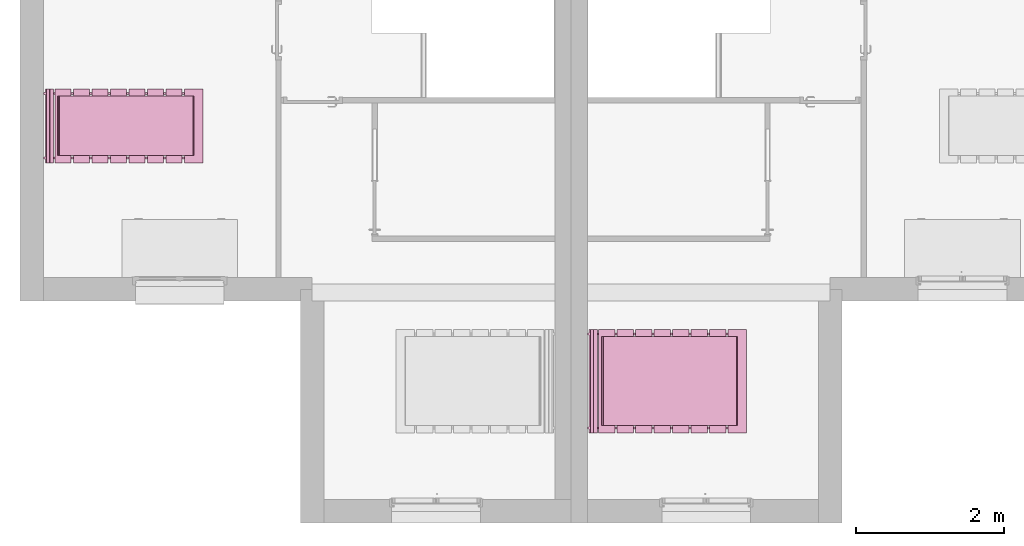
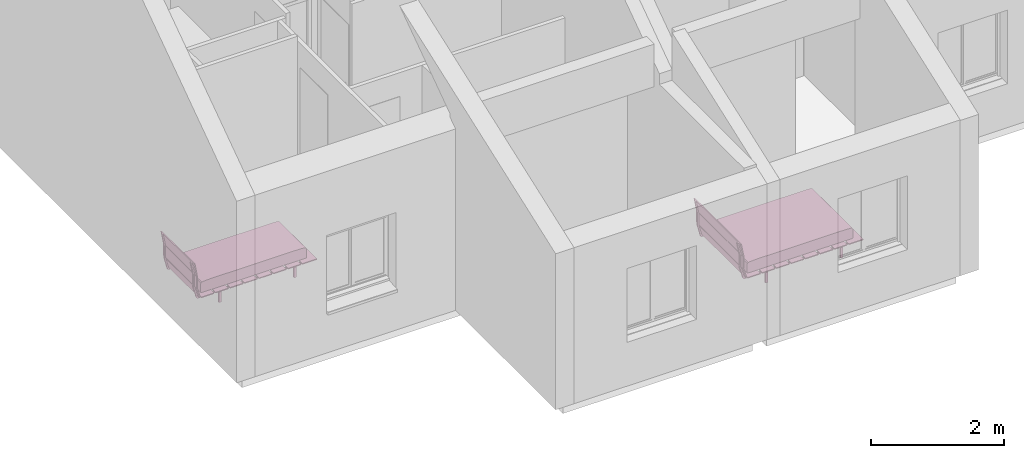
# One storey, part 52 of 61: 2 furnishings.
"""IFC2X3 building model written with IfcOpenShell, lengths in metres."""

from ifc_helpers import new_model, entity, si_unit, converted_unit, derived_unit, direction, frame, frame_2d, origin, origin_2d_with_axis, place, context, subcontext, project, spatial, polyline, circle_curve, parameter, trimmed, segment, composite_curve, rectangle, outline, extrude, source, transform, mapped, material, material_list, type_object, type_shapes, element, save


model = new_model("IFC2X3")

# Units and contexts
model_context = context("Model", 3, precision=1e-05, world=origin(), true_north=direction((6.12303176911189e-17, 1.0)))
body_context = subcontext(model_context, "Body", "Model", "MODEL_VIEW")
ifc_project = project(units=[si_unit("LENGTHUNIT", "METRE"), si_unit("AREAUNIT", "SQUARE_METRE"), si_unit("VOLUMEUNIT", "CUBIC_METRE"), converted_unit("PLANEANGLEUNIT", "DEGREE", entity("IfcRatioMeasure", 0.0174532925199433), si_unit("PLANEANGLEUNIT", "RADIAN"), dimensions=[0, 0, 0, 0, 0, 0, 0]), si_unit("MASSUNIT", "GRAM", prefix="KILO"), derived_unit("MASSDENSITYUNIT", [(si_unit("MASSUNIT", "GRAM", prefix="KILO"), 1), (si_unit("LENGTHUNIT", "METRE"), -3)]), si_unit("TIMEUNIT", "SECOND"), si_unit("FREQUENCYUNIT", "HERTZ"), si_unit("THERMODYNAMICTEMPERATUREUNIT", "DEGREE_CELSIUS"), derived_unit("THERMALTRANSMITTANCEUNIT", [(si_unit("MASSUNIT", "GRAM", prefix="KILO"), 1), (si_unit("THERMODYNAMICTEMPERATUREUNIT", "KELVIN"), -1), (si_unit("TIMEUNIT", "SECOND"), -3)]), derived_unit("VOLUMETRICFLOWRATEUNIT", [(si_unit("LENGTHUNIT", "METRE"), 3), (si_unit("TIMEUNIT", "SECOND"), -1)]), si_unit("ELECTRICCURRENTUNIT", "AMPERE"), si_unit("ELECTRICVOLTAGEUNIT", "VOLT"), si_unit("POWERUNIT", "WATT"), si_unit("FORCEUNIT", "NEWTON", prefix="KILO"), si_unit("ILLUMINANCEUNIT", "LUX"), si_unit("LUMINOUSFLUXUNIT", "LUMEN"), si_unit("LUMINOUSINTENSITYUNIT", "CANDELA"), derived_unit("USERDEFINED", [(si_unit("MASSUNIT", "GRAM", prefix="KILO"), -1), (si_unit("LENGTHUNIT", "METRE"), -2), (si_unit("TIMEUNIT", "SECOND"), 3), (si_unit("LUMINOUSFLUXUNIT", "LUMEN"), 1)]), derived_unit("LINEARVELOCITYUNIT", [(si_unit("LENGTHUNIT", "METRE"), 1), (si_unit("TIMEUNIT", "SECOND"), -1)]), si_unit("PRESSUREUNIT", "PASCAL"), derived_unit("USERDEFINED", [(si_unit("LENGTHUNIT", "METRE"), -2), (si_unit("MASSUNIT", "GRAM", prefix="KILO"), 1), (si_unit("TIMEUNIT", "SECOND"), -2)])], contexts=[model_context])

# Site, building, storey
site_placement = place(None, origin())
site = spatial("IfcSite", under=ifc_project, at=site_placement, Name="Surface", CompositionType="ELEMENT")
building_placement = place(site_placement, origin())
building = spatial("IfcBuilding", under=site, at=building_placement, CompositionType="ELEMENT")
storey_placement = place(building_placement, frame((0.0, 0.0, 2.82)))
storey = spatial("IfcBuildingStorey", under=building, at=storey_placement, Name="ETAGE", CompositionType="ELEMENT", Elevation=2.82)

# Furnishings
ifc_material_1 = material(Name="Textile - Bleu pâle")
ifc_material_2 = material(Name="Bois - Teck")
ifc_material_3 = material(Name="Plastique - Noir")
ifc_material_list_1 = material_list([ifc_material_1, ifc_material_2, ifc_material_3])
ifc_material_list_2 = material_list([ifc_material_1, ifc_material_2, ifc_material_3])
furniture_type_1 = type_object("IfcFurnitureType", Name="1900 mm x 2000 mm", material=ifc_material_list_2)
shared_shape_1 = source(origin(), body_context, "Body", "SweptSolid", [
    extrude(outline(composite_curve([segment(polyline([(-0.755361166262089, -0.0846796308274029), (0.695178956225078, -0.0846796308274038)]), True, "CONTINUOUS"), segment(polyline([(0.695178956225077, -0.0846796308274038), (0.816394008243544, -0.078623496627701)]), True, "CONTINUOUS"), segment(polyline([(0.816394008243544, -0.078623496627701), (0.842657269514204, -0.0725673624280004)]), True, "CONTINUOUS"), segment(polyline([(0.842657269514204, -0.0725673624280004), (0.856799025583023, -0.0624738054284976)]), True, "CONTINUOUS"), segment(polyline([(0.856799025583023, -0.0624738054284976), (0.862859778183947, -0.0443054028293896)]), True, "CONTINUOUS"), segment(polyline([(0.862859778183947, -0.0443054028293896), (0.866900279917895, -0.0120060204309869)]), True, "CONTINUOUS"), segment(polyline([(0.866900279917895, -0.0120060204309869), (0.866900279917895, 0.0747985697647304)]), True, "CONTINUOUS"), segment(polyline([(0.866900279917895, 0.0747985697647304), (0.862859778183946, 0.105079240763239)]), True, "CONTINUOUS"), segment(polyline([(0.862859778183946, 0.105079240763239), (0.856799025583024, 0.113154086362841)]), True, "CONTINUOUS"), segment(polyline([(0.856799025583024, 0.113154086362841), (0.836596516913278, 0.117191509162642)]), True, "CONTINUOUS"), segment(polyline([(0.836596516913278, 0.117191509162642), (-0.953345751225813, 0.117191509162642)]), True, "CONTINUOUS"), segment(polyline([(-0.953345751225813, 0.117191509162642), (-0.969507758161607, 0.115172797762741)]), True, "CONTINUOUS"), segment(polyline([(-0.969507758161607, 0.115172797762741), (-0.971528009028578, 0.103060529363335)]), True, "CONTINUOUS"), segment(polyline([(-0.971528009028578, 0.103060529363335), (-0.971528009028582, -0.0160434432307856)]), True, "CONTINUOUS"), segment(trimmed(circle_curve(frame_2d((-0.76779044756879, -0.0160434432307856), x_axis=(-1.0, 0.0)), 0.203737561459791), [parameter(360.0)], [parameter(11.4298384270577)], True, "PARAMETER"), True, "CONTINUOUS"), segment(trimmed(circle_curve(frame_2d((-0.944467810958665, -0.0517636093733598), x_axis=(-1.0, 0.0)), 0.0234854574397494), [parameter(11.4298384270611)], [parameter(62.3518913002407)], True, "PARAMETER"), True, "CONTINUOUS"), segment(trimmed(circle_curve(frame_2d((-0.929629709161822, -0.0234388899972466), x_axis=(-1.0, 0.0)), 0.0554613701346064), [parameter(62.35189130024)], [parameter(84.2736549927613)], True, "PARAMETER"), True, "CONTINUOUS"), segment(trimmed(circle_curve(frame_2d((-0.809859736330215, 1.1709442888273), x_axis=(-1.0, 0.0)), 1.25583465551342), [parameter(84.2736549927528)], [parameter(86.5854437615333)], True, "PARAMETER"), True, "CONTINUOUS"), segment(polyline([(-0.884657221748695, -0.0826609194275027), (-0.755361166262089, -0.0846796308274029)]), True, "CONTINUOUS")], self_intersect=False)), frame((-0.6, 1.05656455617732, 0.367191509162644), z_axis=(1.0, 0.0, 0.0), x_axis=(0.0, -1.0, 0.0)), (0.0, 0.0, 1.0), 1.2),
    extrude(rectangle(XDim=1.4, YDim=0.249999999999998, at=origin_2d_with_axis()), frame((0.0, 2.02499620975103, 0.232311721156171), z_axis=(0.0, 0.0, 1.0), x_axis=(-1.0, 0.0, 0.0)), (0.0, 0.0, 1.0), 0.0176882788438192),
    extrude(outline(polyline([(-0.114793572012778, -0.00886960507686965), (0.115119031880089, -0.00886960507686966), (0.115119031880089, 0.00896042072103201), (-0.115444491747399, 0.00877878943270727), (-0.114793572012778, -0.00886960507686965)])), frame((-0.7, 0.051324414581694, 0.783374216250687), z_axis=(1.0, 0.0, 0.0), x_axis=(0.0, -0.182165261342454, 0.983267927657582)), (0.0, 0.0, 1.0), 1.4),
    extrude(rectangle(XDim=1.4, YDim=0.219999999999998, at=frame_2d((0.0, 1.38777878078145e-16), x_axis=(1.0, 0.0))), frame((0.0, 1.75999620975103, 0.232311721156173), z_axis=(0.0, 0.0, 1.0), x_axis=(-1.0, 0.0, 0.0)), (0.0, 0.0, 1.0), 0.0176882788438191),
    extrude(rectangle(XDim=1.4, YDim=0.219999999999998, at=frame_2d((0.0, -1.31838984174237e-16), x_axis=(1.0, 0.0))), frame((0.0, 1.50999620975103, 0.232311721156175), z_axis=(0.0, 0.0, 1.0), x_axis=(-1.0, 0.0, 0.0)), (0.0, 0.0, 1.0), 0.017688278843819),
    extrude(rectangle(XDim=1.4, YDim=0.219999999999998, at=frame_2d((0.0, -1.38777878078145e-16), x_axis=(1.0, 0.0))), frame((0.0, 1.25999620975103, 0.232311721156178), z_axis=(0.0, 0.0, 1.0), x_axis=(-1.0, 0.0, 0.0)), (0.0, 0.0, 1.0), 0.0176882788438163),
    extrude(rectangle(XDim=1.4, YDim=0.219999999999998, at=frame_2d((0.0, 6.93889390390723e-17), x_axis=(1.0, 0.0))), frame((0.0, 1.00999620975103, 0.232311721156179), z_axis=(0.0, 0.0, 1.0), x_axis=(-1.0, 0.0, 0.0)), (0.0, 0.0, 1.0), 0.0176882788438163),
    extrude(rectangle(XDim=1.4, YDim=0.22, at=origin_2d_with_axis()), frame((0.0, 0.759996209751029, 0.232311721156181), z_axis=(0.0, 0.0, 1.0), x_axis=(-1.0, 0.0, 0.0)), (0.0, 0.0, 1.0), 0.0176882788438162),
    extrude(rectangle(XDim=1.4, YDim=0.22, at=origin_2d_with_axis()), frame((0.0, 0.509996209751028, 0.232311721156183), z_axis=(0.0, 0.0, 1.0), x_axis=(-1.0, 0.0, 0.0)), (0.0, 0.0, 1.0), 0.0176882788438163),
    extrude(rectangle(XDim=1.4, YDim=0.22, at=origin_2d_with_axis()), frame((0.0, 0.259996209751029, 0.232311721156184), z_axis=(0.0, 0.0, 1.0), x_axis=(-1.0, 0.0, 0.0)), (0.0, 0.0, 1.0), 0.0176882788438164),
    extrude(rectangle(XDim=1.4, YDim=0.0183684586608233, at=origin_2d_with_axis()), frame((0.0, 0.0735868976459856, 0.443802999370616), z_axis=(0.0, 0.0, 1.0), x_axis=(-1.0, 0.0, 0.0)), (0.0, 0.0, 1.0), 0.214481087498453),
    extrude(outline(polyline([(-0.0941857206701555, -0.00889996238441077), (0.0936128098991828, -0.00889996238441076), (0.0943260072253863, 0.00869876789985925), (-0.0937530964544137, 0.00910115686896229), (-0.0941857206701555, -0.00889996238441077)])), frame((-0.7, 0.100341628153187, 0.340588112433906), z_axis=(1.0, 0.0, 0.0), x_axis=(0.0, -0.268983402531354, 0.96314481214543)), (0.0, 0.0, 1.0), 1.4),
    extrude(rectangle(XDim=0.0299999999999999, YDim=0.0421792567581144, at=frame_2d((0.0, -2.70616862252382e-16), x_axis=(1.0, 0.0))), frame((-0.634999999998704, 1.80439834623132, 0.0)), (0.0, 0.0, 1.0), 0.204645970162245),
    extrude(rectangle(XDim=0.0299999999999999, YDim=0.0421792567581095, at=frame_2d((0.0, -3.29597460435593e-17), x_axis=(1.0, 0.0))), frame((-0.634999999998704, 0.505017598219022, 0.0)), (0.0, 0.0, 1.0), 0.204645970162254),
    extrude(rectangle(XDim=0.0299999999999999, YDim=0.0421792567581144, at=origin_2d_with_axis()), frame((0.635000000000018, 1.80439834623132, 0.0), z_axis=(0.0, 0.0, 1.0), x_axis=(-1.0, 0.0, 0.0)), (0.0, 0.0, 1.0), 0.204645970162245),
    extrude(rectangle(XDim=0.0299999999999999, YDim=0.0421792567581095, at=frame_2d((0.0, -3.29597460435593e-17), x_axis=(1.0, 0.0))), frame((0.635000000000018, 0.505017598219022, 0.0), z_axis=(0.0, 0.0, 1.0), x_axis=(-1.0, 0.0, 0.0)), (0.0, 0.0, 1.0), 0.204645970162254),
    extrude(outline(composite_curve([segment(polyline([(-0.499010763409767, 0.346366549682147), (-0.499569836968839, 0.324560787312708)]), True, "CONTINUOUS"), segment(polyline([(-0.499569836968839, 0.324560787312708), (-0.2642053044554, 0.324063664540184)]), True, "CONTINUOUS"), segment(polyline([(-0.2642053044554, 0.324063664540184), (-0.0414406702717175, 0.365029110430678)]), True, "CONTINUOUS"), segment(polyline([(-0.0414406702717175, 0.365029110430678), (0.170125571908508, 0.346291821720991)]), True, "CONTINUOUS"), segment(polyline([(0.170125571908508, 0.346291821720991), (0.528537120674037, -1.59768807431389)]), True, "CONTINUOUS"), segment(polyline([(0.528537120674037, -1.59768807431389), (0.549932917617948, -1.56608457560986)]), True, "CONTINUOUS"), segment(polyline([(0.549932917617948, -1.56608457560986), (0.19740578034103, 0.350911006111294)]), True, "CONTINUOUS"), segment(trimmed(circle_curve(frame_2d((0.17103903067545, 0.346062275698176), x_axis=(0.180862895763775, -0.983508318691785)), 0.0268088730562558), [parameter(90.0)], [parameter(167.367566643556)], True, "PARAMETER"), True, "CONTINUOUS"), segment(polyline([(0.172073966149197, 0.372851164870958), (-0.0455420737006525, 0.387331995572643)]), True, "CONTINUOUS"), segment(polyline([(-0.0455420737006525, 0.387331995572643), (-0.268306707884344, 0.346366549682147)]), True, "CONTINUOUS"), segment(polyline([(-0.268306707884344, 0.346366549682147), (-0.499010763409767, 0.346366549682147)]), True, "CONTINUOUS")], self_intersect=False)), frame((-0.649999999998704, 0.430906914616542, 0.462262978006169), z_axis=(-1.0, 0.0, 0.0), x_axis=(0.0, 0.180862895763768, -0.983508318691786)), (0.0, 0.0, -1.0), 0.0299999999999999),
    extrude(outline(composite_curve([segment(polyline([(-0.499010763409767, 0.346366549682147), (-0.49956983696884, 0.324560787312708)]), True, "CONTINUOUS"), segment(polyline([(-0.49956983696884, 0.324560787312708), (-0.2642053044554, 0.324063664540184)]), True, "CONTINUOUS"), segment(polyline([(-0.2642053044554, 0.324063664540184), (-0.0414406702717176, 0.365029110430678)]), True, "CONTINUOUS"), segment(polyline([(-0.0414406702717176, 0.365029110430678), (0.170125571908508, 0.346291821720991)]), True, "CONTINUOUS"), segment(polyline([(0.170125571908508, 0.346291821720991), (0.528537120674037, -1.59768807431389)]), True, "CONTINUOUS"), segment(polyline([(0.528537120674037, -1.59768807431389), (0.549932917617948, -1.56608457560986)]), True, "CONTINUOUS"), segment(polyline([(0.549932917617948, -1.56608457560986), (0.19740578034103, 0.350911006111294)]), True, "CONTINUOUS"), segment(trimmed(circle_curve(frame_2d((0.17103903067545, 0.346062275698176), x_axis=(0.180862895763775, -0.983508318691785)), 0.0268088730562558), [parameter(90.0)], [parameter(167.367566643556)], True, "PARAMETER"), True, "CONTINUOUS"), segment(polyline([(0.172073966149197, 0.372851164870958), (-0.0455420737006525, 0.387331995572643)]), True, "CONTINUOUS"), segment(polyline([(-0.0455420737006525, 0.387331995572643), (-0.268306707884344, 0.346366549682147)]), True, "CONTINUOUS"), segment(polyline([(-0.268306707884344, 0.346366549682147), (-0.499010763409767, 0.346366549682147)]), True, "CONTINUOUS")], self_intersect=False)), frame((0.620000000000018, 0.430906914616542, 0.462262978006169), z_axis=(-1.0, 0.0, 0.0), x_axis=(0.0, 0.180862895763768, -0.983508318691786)), (0.0, 0.0, -1.0), 0.0299999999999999),
])
type_shapes(furniture_type_1, [shared_shape_1])
furnishing_1_placement = place(storey_placement, frame((69.0546263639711, 78.8077566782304, 0.0199999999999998), z_axis=(0.0, 0.0, 1.0), x_axis=(0.0, -1.0, 0.0)))
element("IfcFurnishingElement", 1, at=furnishing_1_placement, inside=storey, type_object=furniture_type_1, material=ifc_material_list_1, Name="Lit à lattes:1900 mm x 2000 mm", ObjectType="Lit à lattes:1900 mm x 2000 mm", context=body_context, shape_type="MappedRepresentation", body=[
    mapped(shared_shape_1, transform((0.0, 0.0, 0.0), scale=1.0)),
])
ifc_material_list_3 = material_list([ifc_material_1, ifc_material_2, ifc_material_3])
ifc_material_list_4 = material_list([ifc_material_1, ifc_material_2, ifc_material_3])
furniture_type_2 = type_object("IfcFurnitureType", Name="1000 mm x 2000 mm 3", material=ifc_material_list_4)
shared_shape_2 = source(origin(), body_context, "Body", "SweptSolid", [
    extrude(outline(composite_curve([segment(polyline([(0.753947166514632, -0.0964613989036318), (0.883258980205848, -0.0964613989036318)]), True, "CONTINUOUS"), segment(trimmed(circle_curve(frame_2d((0.82804087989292, 1.1581587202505), x_axis=(0.999878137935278, -0.0156111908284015)), 1.25583465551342), [parameter(273.414556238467)], [parameter(275.726345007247)], True, "PARAMETER"), True, "CONTINUOUS"), segment(trimmed(circle_curve(frame_2d((0.929150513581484, -0.0379486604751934), x_axis=(0.999878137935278, -0.0156111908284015)), 0.0554613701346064), [parameter(275.726345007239)], [parameter(297.64810869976)], True, "PARAMETER"), True, "CONTINUOUS"), segment(trimmed(circle_curve(frame_2d((0.943544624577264, -0.0665015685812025), x_axis=(0.999878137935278, -0.0156111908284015)), 0.0234854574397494), [parameter(297.648108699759)], [parameter(348.570161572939)], True, "PARAMETER"), True, "CONTINUOUS"), segment(trimmed(circle_curve(frame_2d((0.767446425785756, -0.0280276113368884), x_axis=(0.999878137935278, -0.0156111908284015)), 0.203737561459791), [parameter(348.570161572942)], [parameter(3.56222124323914e-13)], True, "PARAMETER"), True, "CONTINUOUS"), segment(polyline([(0.971159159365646, -0.0312081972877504), (0.97301851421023, 0.0878812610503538)]), True, "CONTINUOUS"), segment(polyline([(0.97301851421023, 0.0878812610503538), (0.971187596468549, 0.10002359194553)]), True, "CONTINUOUS"), segment(polyline([(0.971187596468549, 0.10002359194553), (0.955059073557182, 0.102294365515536)]), True, "CONTINUOUS"), segment(polyline([(0.955059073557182, 0.102294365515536), (-0.834665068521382, 0.130237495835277)]), True, "CONTINUOUS"), segment(polyline([(-0.834665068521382, 0.130237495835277), (-0.854928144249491, 0.12651595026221)]), True, "CONTINUOUS"), segment(polyline([(-0.854928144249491, 0.12651595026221), (-0.861114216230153, 0.118536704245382)]), True, "CONTINUOUS"), segment(polyline([(-0.861114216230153, 0.118536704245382), (-0.865626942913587, 0.0883228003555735)]), True, "CONTINUOUS"), segment(polyline([(-0.865626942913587, 0.0883228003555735), (-0.866982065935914, 0.00152878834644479)]), True, "CONTINUOUS"), segment(polyline([(-0.866982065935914, 0.00152878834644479), (-0.863446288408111, -0.0308297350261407)]), True, "CONTINUOUS"), segment(polyline([(-0.863446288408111, -0.0308297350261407), (-0.857669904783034, -0.0490905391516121)]), True, "CONTINUOUS"), segment(polyline([(-0.857669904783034, -0.0490905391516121), (-0.843687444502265, -0.0594036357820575)]), True, "CONTINUOUS"), segment(polyline([(-0.843687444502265, -0.0594036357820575), (-0.817521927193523, -0.0658690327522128)]), True, "CONTINUOUS"), segment(polyline([(-0.817521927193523, -0.0658690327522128), (-0.696416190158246, -0.0738167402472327)]), True, "CONTINUOUS"), segment(polyline([(-0.696416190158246, -0.0738167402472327), (0.753947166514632, -0.0964613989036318)]), True, "CONTINUOUS")], self_intersect=False)), frame((-0.4, -1.05656455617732, 0.367191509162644), z_axis=(1.0, 0.0, 0.0), x_axis=(0.0, -0.999878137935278, -0.0156111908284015)), (0.0, 0.0, 1.0), 0.799999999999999),
    extrude(rectangle(XDim=0.249999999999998, YDim=1.0, at=origin_2d_with_axis()), frame((0.0, -2.02499620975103, 0.232311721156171), z_axis=(0.0, 0.0, 1.0), x_axis=(0.0, 1.0, 0.0)), (0.0, 0.0, 1.0), 0.0176882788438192),
    extrude(outline(polyline([(-0.00463256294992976, -0.115042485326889), (0.0130278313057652, -0.115042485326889), (0.00471132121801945, 0.115371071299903), (-0.0131065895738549, 0.114713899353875), (-0.00463256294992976, -0.115042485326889)])), frame((-0.5, -0.051324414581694, 0.783374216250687), z_axis=(1.0, 0.0, 0.0), x_axis=(0.0, 0.975885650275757, -0.218282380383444)), (0.0, 0.0, 1.0), 0.999999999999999),
    extrude(rectangle(XDim=0.219999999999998, YDim=1.0, at=frame_2d((-1.38777878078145e-16, 0.0), x_axis=(1.0, 0.0))), frame((0.0, -1.75999620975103, 0.232311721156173), z_axis=(0.0, 0.0, 1.0), x_axis=(0.0, 1.0, 0.0)), (0.0, 0.0, 1.0), 0.0176882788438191),
    extrude(rectangle(XDim=0.219999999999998, YDim=1.0, at=frame_2d((-1.31838984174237e-16, 0.0), x_axis=(1.0, 0.0))), frame((0.0, -1.50999620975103, 0.232311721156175), z_axis=(0.0, 0.0, 1.0), x_axis=(0.0, 1.0, 0.0)), (0.0, 0.0, 1.0), 0.017688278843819),
    extrude(rectangle(XDim=0.219999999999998, YDim=1.0, at=frame_2d((-1.38777878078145e-16, 0.0), x_axis=(1.0, 0.0))), frame((0.0, -1.25999620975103, 0.232311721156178), z_axis=(0.0, 0.0, 1.0), x_axis=(0.0, 1.0, 0.0)), (0.0, 0.0, 1.0), 0.0176882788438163),
    extrude(rectangle(XDim=0.219999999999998, YDim=1.0, at=frame_2d((6.93889390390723e-17, 0.0), x_axis=(1.0, 0.0))), frame((0.0, -1.00999620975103, 0.232311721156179), z_axis=(0.0, 0.0, 1.0), x_axis=(0.0, 1.0, 0.0)), (0.0, 0.0, 1.0), 0.0176882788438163),
    extrude(rectangle(XDim=0.22, YDim=1.0, at=origin_2d_with_axis()), frame((0.0, -0.759996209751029, 0.232311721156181), z_axis=(0.0, 0.0, 1.0), x_axis=(0.0, 1.0, 0.0)), (0.0, 0.0, 1.0), 0.0176882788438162),
    extrude(rectangle(XDim=0.22, YDim=1.0, at=origin_2d_with_axis()), frame((0.0, -0.509996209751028, 0.232311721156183), z_axis=(0.0, 0.0, 1.0), x_axis=(0.0, 1.0, 0.0)), (0.0, 0.0, 1.0), 0.0176882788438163),
    extrude(rectangle(XDim=0.22, YDim=1.0, at=origin_2d_with_axis()), frame((0.0, -0.259996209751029, 0.232311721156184), z_axis=(0.0, 0.0, 1.0), x_axis=(0.0, 1.0, 0.0)), (0.0, 0.0, 1.0), 0.0176882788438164),
    extrude(rectangle(XDim=0.0183684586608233, YDim=1.0, at=origin_2d_with_axis()), frame((0.0, -0.0735868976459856, 0.443802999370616), z_axis=(0.0, 0.0, 1.0), x_axis=(0.0, 1.0, 0.0)), (0.0, 0.0, 1.0), 0.214481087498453),
    extrude(outline(polyline([(-0.0111603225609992, -0.093944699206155), (0.00684599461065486, -0.093944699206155), (0.0109625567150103, 0.0940897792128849), (-0.00664822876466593, 0.093799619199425), (-0.0111603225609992, -0.093944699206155)])), frame((-0.5, -0.100341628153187, 0.340588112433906), z_axis=(1.0, 0.0, 0.0), x_axis=(0.0, 0.969329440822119, -0.245764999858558)), (0.0, 0.0, 1.0), 1.0),
    extrude(rectangle(XDim=0.0421792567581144, YDim=0.03, at=frame_2d((0.0, -3.38271077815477e-17), x_axis=(1.0, 0.0))), frame((-0.434999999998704, -1.80439834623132, 0.0), z_axis=(0.0, 0.0, 1.0), x_axis=(0.0, -1.0, 0.0)), (0.0, 0.0, 1.0), 0.204645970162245),
    extrude(rectangle(XDim=0.0421792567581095, YDim=0.03, at=frame_2d((3.29597460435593e-17, -3.38271077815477e-17), x_axis=(1.0, 0.0))), frame((-0.434999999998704, -0.505017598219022, 0.0), z_axis=(0.0, 0.0, 1.0), x_axis=(0.0, -1.0, 0.0)), (0.0, 0.0, 1.0), 0.204645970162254),
    extrude(rectangle(XDim=0.0421792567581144, YDim=0.03, at=frame_2d((2.70616862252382e-16, -3.38271077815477e-17), x_axis=(1.0, 0.0))), frame((0.435000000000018, -1.80439834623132, 0.0), z_axis=(0.0, 0.0, 1.0), x_axis=(0.0, 1.0, 0.0)), (0.0, 0.0, 1.0), 0.204645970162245),
    extrude(rectangle(XDim=0.0421792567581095, YDim=0.03, at=frame_2d((-3.29597460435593e-17, -3.38271077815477e-17), x_axis=(1.0, 0.0))), frame((0.435000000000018, -0.505017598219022, 0.0), z_axis=(0.0, 0.0, 1.0), x_axis=(0.0, 1.0, 0.0)), (0.0, 0.0, 1.0), 0.204645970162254),
    extrude(outline(composite_curve([segment(polyline([(-0.333462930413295, -0.507724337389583), (-0.311650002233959, -0.507724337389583)]), True, "CONTINUOUS"), segment(polyline([(-0.311650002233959, -0.507724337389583), (-0.317185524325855, -0.272424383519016)]), True, "CONTINUOUS"), segment(polyline([(-0.317185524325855, -0.272424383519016), (-0.363847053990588, -0.050782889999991)]), True, "CONTINUOUS"), segment(polyline([(-0.363847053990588, -0.050782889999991), (-0.350538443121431, 0.161194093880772)]), True, "CONTINUOUS"), segment(polyline([(-0.350538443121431, 0.161194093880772), (1.5836166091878, 0.569312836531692)]), True, "CONTINUOUS"), segment(polyline([(1.5836166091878, 0.569312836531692), (1.55147511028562, 0.589891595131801)]), True, "CONTINUOUS"), segment(polyline([(1.55147511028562, 0.589891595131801), (-0.355855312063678, 0.188346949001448)]), True, "CONTINUOUS"), segment(trimmed(circle_curve(frame_2d((-0.350332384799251, 0.162113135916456), x_axis=(0.978549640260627, 0.206011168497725)), 0.0268088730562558), [parameter(90.0)], [parameter(167.367566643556)], True, "PARAMETER"), True, "CONTINUOUS"), segment(polyline([(-0.377138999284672, 0.162461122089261), (-0.386037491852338, -0.0554545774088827)]), True, "CONTINUOUS"), segment(polyline([(-0.386037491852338, -0.0554545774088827), (-0.339375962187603, -0.277096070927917)]), True, "CONTINUOUS"), segment(polyline([(-0.339375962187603, -0.277096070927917), (-0.333462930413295, -0.507724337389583)]), True, "CONTINUOUS")], self_intersect=False)), frame((-0.449999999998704, -0.430906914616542, 0.462262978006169), z_axis=(1.0, 0.0, 0.0), x_axis=(0.0, -0.978549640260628, 0.206011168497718)), (0.0, 0.0, 1.0), 0.0299999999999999),
    extrude(outline(composite_curve([segment(polyline([(-0.333462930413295, -0.507724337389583), (-0.311650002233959, -0.507724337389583)]), True, "CONTINUOUS"), segment(polyline([(-0.311650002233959, -0.507724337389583), (-0.317185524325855, -0.272424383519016)]), True, "CONTINUOUS"), segment(polyline([(-0.317185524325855, -0.272424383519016), (-0.363847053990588, -0.0507828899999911)]), True, "CONTINUOUS"), segment(polyline([(-0.363847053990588, -0.0507828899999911), (-0.350538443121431, 0.161194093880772)]), True, "CONTINUOUS"), segment(polyline([(-0.350538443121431, 0.161194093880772), (1.5836166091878, 0.569312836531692)]), True, "CONTINUOUS"), segment(polyline([(1.5836166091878, 0.569312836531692), (1.55147511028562, 0.5898915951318)]), True, "CONTINUOUS"), segment(polyline([(1.55147511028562, 0.5898915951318), (-0.355855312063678, 0.188346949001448)]), True, "CONTINUOUS"), segment(trimmed(circle_curve(frame_2d((-0.350332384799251, 0.162113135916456), x_axis=(0.978549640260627, 0.206011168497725)), 0.0268088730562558), [parameter(90.0)], [parameter(167.367566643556)], True, "PARAMETER"), True, "CONTINUOUS"), segment(polyline([(-0.377138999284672, 0.162461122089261), (-0.386037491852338, -0.0554545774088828)]), True, "CONTINUOUS"), segment(polyline([(-0.386037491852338, -0.0554545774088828), (-0.339375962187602, -0.277096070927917)]), True, "CONTINUOUS"), segment(polyline([(-0.339375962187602, -0.277096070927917), (-0.333462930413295, -0.507724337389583)]), True, "CONTINUOUS")], self_intersect=False)), frame((0.420000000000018, -0.430906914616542, 0.462262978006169), z_axis=(1.0, 0.0, 0.0), x_axis=(0.0, -0.978549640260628, 0.206011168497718)), (0.0, 0.0, 1.0), 0.0299999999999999),
])
type_shapes(furniture_type_2, [shared_shape_2])
furnishing_2_placement = place(storey_placement, frame((61.7063634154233, 82.2577566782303, 0.0199999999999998), z_axis=(0.0, 0.0, 1.0), x_axis=(0.0, 1.0, 0.0)))
element("IfcFurnishingElement", 2, at=furnishing_2_placement, inside=storey, type_object=furniture_type_2, material=ifc_material_list_3, Name="Lit à lattes:1000 mm x 2000 mm 3", ObjectType="Lit à lattes:1000 mm x 2000 mm 3", context=body_context, shape_type="MappedRepresentation", body=[
    mapped(shared_shape_2, transform((0.0, 0.0, 0.0), scale=1.0)),
])

save(model, "model.ifc")
